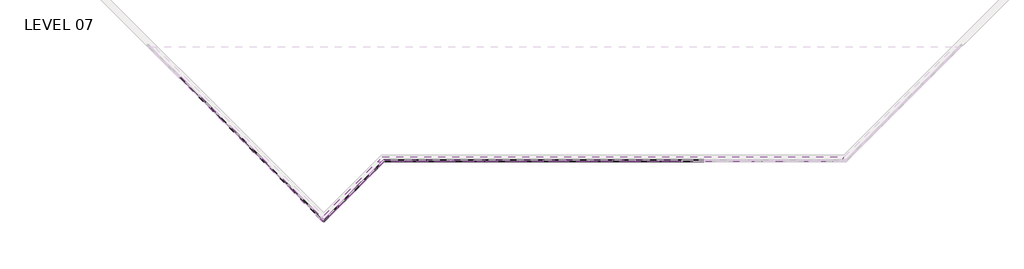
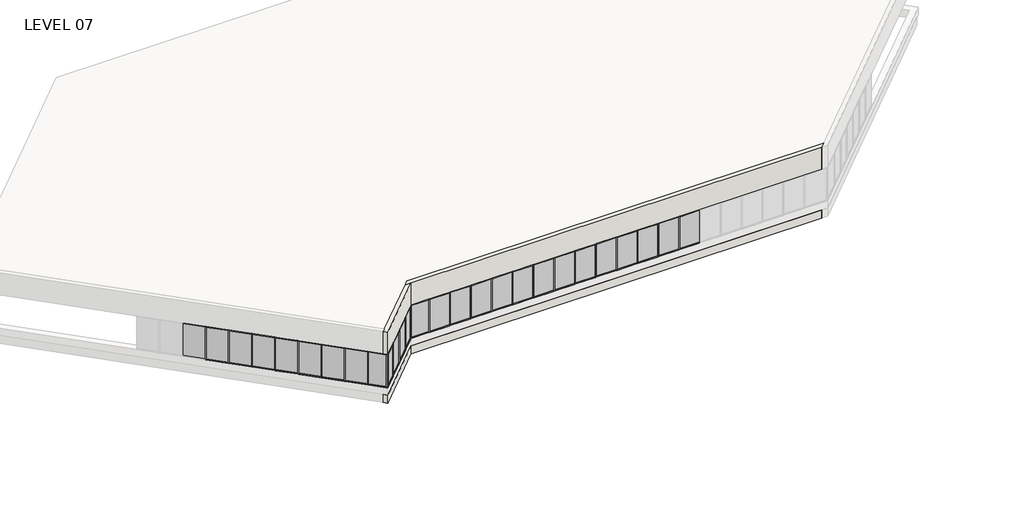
# One storey, part 1 of 18: 80 members, 27 plates, 4 walls.
"""IFC4 building model written with IfcOpenShell, lengths in millimetres."""

from ifc_helpers import new_model, si_unit, origin, place, context, project, spatial, faceted_brep, transform, mapped, element, save
from components import member_5247f267, member_e44af9ab, member_800970d4, member_c23f844a, member_45eb7f2e, member_ed9c17d6, member_53409b32, member_43bac76b, member_0b71a88d, plate_67294edd, plate_50b9cd61, plate_9c66726c, plate_dca6a18a, plate_903242d9, plate_0d1907f3, plate_15429445

model = new_model("IFC4")

# Units and contexts
model_context = context("Model", 3, world=origin())
ifc_project = project(units=[si_unit("LENGTHUNIT", "METRE", prefix="MILLI")], contexts=[model_context])

# Site, building, storey
site = spatial("IfcSite", under=ifc_project)
building = spatial("IfcBuilding", under=site)
storey = spatial("IfcBuildingStorey", under=building, Name="LEVEL 07", Elevation=23368.0)

# Members
placement = place(None, origin())
member_shape = member_5247f267(model_context)
element("IfcMember", 1, ObjectType="Rectangular Mullion : 2\" x 4.5\" rectangular", at=placement, inside=storey, context=model_context, shape_type="MappedRepresentation", body=[
    mapped(member_shape, transform((19945.35, -5092.0171279, 23368.0), x_axis=(0.0, 0.0, -1.0), y_axis=(0.0, -1.0, 0.0), z_axis=(-1.0, 0.0, 0.0))),
])
element("IfcMember", 2, ObjectType="Rectangular Mullion : 2\" x 4.5\" rectangular", at=placement, inside=storey, context=model_context, shape_type="MappedRepresentation", body=[
    mapped(member_shape, transform((21469.35, -5092.0171279, 23368.0), x_axis=(0.0, 0.0, -1.0), y_axis=(0.0, -1.0, 0.0), z_axis=(-1.0, 0.0, 0.0))),
])
element("IfcMember", 3, ObjectType="Rectangular Mullion : 2\" x 4.5\" rectangular", at=placement, inside=storey, context=model_context, shape_type="MappedRepresentation", body=[
    mapped(member_shape, transform((22993.35, -5092.0171279, 23368.0), x_axis=(0.0, 0.0, -1.0), y_axis=(0.0, -1.0, 0.0), z_axis=(-1.0, 0.0, 0.0))),
])
element("IfcMember", 4, ObjectType="Rectangular Mullion : 2\" x 4.5\" rectangular", at=placement, inside=storey, context=model_context, shape_type="MappedRepresentation", body=[
    mapped(member_shape, transform((29089.35, -5092.0171279, 23368.0), x_axis=(0.0, 0.0, -1.0), y_axis=(0.0, -1.0, 0.0), z_axis=(-1.0, 0.0, 0.0))),
])
element("IfcMember", 5, ObjectType="Rectangular Mullion : 2\" x 4.5\" rectangular", at=placement, inside=storey, context=model_context, shape_type="MappedRepresentation", body=[
    mapped(member_shape, transform((30613.35, -5092.0171279, 23368.0), x_axis=(0.0, 0.0, -1.0), y_axis=(0.0, -1.0, 0.0), z_axis=(-1.0, 0.0, 0.0))),
])
element("IfcMember", 6, ObjectType="Rectangular Mullion : 2\" x 4.5\" rectangular", at=placement, inside=storey, context=model_context, shape_type="MappedRepresentation", body=[
    mapped(member_shape, transform((32137.35, -5092.0171279, 23368.0), x_axis=(0.0, 0.0, -1.0), y_axis=(0.0, -1.0, 0.0), z_axis=(-1.0, 0.0, 0.0))),
])
element("IfcMember", 7, ObjectType="Rectangular Mullion : 2\" x 4.5\" rectangular", at=placement, inside=storey, context=model_context, shape_type="MappedRepresentation", body=[
    mapped(member_shape, transform((35185.35, -5092.0171279, 23368.0), x_axis=(0.0, 0.0, -1.0), y_axis=(0.0, -1.0, 0.0), z_axis=(-1.0, 0.0, 0.0))),
])
element("IfcMember", 8, ObjectType="Rectangular Mullion : 2\" x 4.5\" rectangular", at=placement, inside=storey, context=model_context, shape_type="MappedRepresentation", body=[
    mapped(member_shape, transform((36709.35, -5092.0171279, 23368.0), x_axis=(0.0, 0.0, -1.0), y_axis=(0.0, -1.0, 0.0), z_axis=(-1.0, 0.0, 0.0))),
])
element("IfcMember", 9, ObjectType="Rectangular Mullion : 2\" x 4.5\" rectangular", at=placement, inside=storey, context=model_context, shape_type="MappedRepresentation", body=[
    mapped(member_shape, transform((24517.35, -5092.0171279, 23368.0), x_axis=(0.0, 0.0, -1.0), y_axis=(0.0, -1.0, 0.0), z_axis=(-1.0, 0.0, 0.0))),
])
element("IfcMember", 10, ObjectType="Rectangular Mullion : 2\" x 4.5\" rectangular", at=placement, inside=storey, context=model_context, shape_type="MappedRepresentation", body=[
    mapped(member_shape, transform((27565.35, -5092.0171279, 23368.0), x_axis=(0.0, 0.0, -1.0), y_axis=(0.0, -1.0, 0.0), z_axis=(-1.0, 0.0, 0.0))),
])
element("IfcMember", 11, ObjectType="Rectangular Mullion : 2\" x 4.5\" rectangular", at=placement, inside=storey, context=model_context, shape_type="MappedRepresentation", body=[
    mapped(member_shape, transform((26041.35, -5092.0171279, 23368.0), x_axis=(0.0, 0.0, -1.0), y_axis=(0.0, -1.0, 0.0), z_axis=(-1.0, 0.0, 0.0))),
])
element("IfcMember", 12, ObjectType="Rectangular Mullion : 2\" x 4.5\" rectangular", at=placement, inside=storey, context=model_context, shape_type="MappedRepresentation", body=[
    mapped(member_shape, transform((38233.35, -5092.0171279, 23368.0), x_axis=(0.0, 0.0, -1.0), y_axis=(0.0, -1.0, 0.0), z_axis=(-1.0, 0.0, 0.0))),
])
element("IfcMember", 13, ObjectType="Rectangular Mullion : 2\" x 4.5\" rectangular", at=placement, inside=storey, context=model_context, shape_type="MappedRepresentation", body=[
    mapped(member_shape, transform((33661.35, -5092.0171279, 23368.0), x_axis=(0.0, 0.0, -1.0), y_axis=(0.0, -1.0, 0.0), z_axis=(-1.0, 0.0, 0.0))),
])
element("IfcMember", 14, ObjectType="Rectangular Mullion : 2\" x 4.5\" rectangular", at=placement, inside=storey, context=model_context, shape_type="MappedRepresentation", body=[
    mapped(member_shape, transform((9409.6310836, -3891.4043471, 23368.0), x_axis=(0.0, 0.0, -1.0), y_axis=(-0.707106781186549, -0.7071067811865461, 0.0), z_axis=(-0.7071067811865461, 0.707106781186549, 0.0))),
])
element("IfcMember", 15, ObjectType="Rectangular Mullion : 2\" x 4.5\" rectangular", at=placement, inside=storey, context=model_context, shape_type="MappedRepresentation", body=[
    mapped(member_shape, transform((10487.2618181, -4969.0350816, 23368.0), x_axis=(0.0, 0.0, -1.0), y_axis=(-0.707106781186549, -0.7071067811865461, 0.0), z_axis=(-0.7071067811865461, 0.707106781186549, 0.0))),
])
element("IfcMember", 16, ObjectType="Rectangular Mullion : 2\" x 4.5\" rectangular", at=placement, inside=storey, context=model_context, shape_type="MappedRepresentation", body=[
    mapped(member_shape, transform((11564.8925527, -6046.6658162, 23368.0), x_axis=(0.0, 0.0, -1.0), y_axis=(-0.707106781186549, -0.7071067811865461, 0.0), z_axis=(-0.7071067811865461, 0.707106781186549, 0.0))),
])
element("IfcMember", 17, ObjectType="Rectangular Mullion : 2\" x 4.5\" rectangular", at=placement, inside=storey, context=model_context, shape_type="MappedRepresentation", body=[
    mapped(member_shape, transform((12642.5232872, -7124.2965507, 23368.0), x_axis=(0.0, 0.0, -1.0), y_axis=(-0.7071067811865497, -0.7071067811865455, 0.0), z_axis=(-0.7071067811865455, 0.7071067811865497, 0.0))),
])
element("IfcMember", 18, ObjectType="Rectangular Mullion : 2\" x 4.5\" rectangular", at=placement, inside=storey, context=model_context, shape_type="MappedRepresentation", body=[
    mapped(member_shape, transform((16592.327111, -7061.3461525, 23368.0), x_axis=(0.0, 0.0, -1.0), y_axis=(0.7071067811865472, -0.7071067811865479, 0.0), z_axis=(-0.7071067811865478, -0.7071067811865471, 0.0))),
])
element("IfcMember", 19, ObjectType="Rectangular Mullion : 2\" x 4.5\" rectangular", at=placement, inside=storey, context=model_context, shape_type="MappedRepresentation", body=[
    mapped(member_shape, transform((15514.6963765, -8138.976887, 23368.0), x_axis=(0.0, 0.0, -1.0), y_axis=(0.7071067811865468, -0.7071067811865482, 0.0), z_axis=(-0.7071067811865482, -0.7071067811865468, 0.0))),
])
element("IfcMember", 20, ObjectType="Rectangular Mullion : 2\" x 4.5\" rectangular", at=placement, inside=storey, context=model_context, shape_type="MappedRepresentation", body=[
    mapped(member_shape, transform((21418.55, -5092.0171279, 25958.8), x_axis=(0.0, 0.0, 1.0), y_axis=(0.0, -1.0, 0.0), z_axis=(1.0, 0.0, 0.0))),
])
element("IfcMember", 21, ObjectType="Rectangular Mullion : 2\" x 4.5\" rectangular", at=placement, inside=storey, context=model_context, shape_type="MappedRepresentation", body=[
    mapped(member_shape, transform((22942.55, -5092.0171279, 25958.8), x_axis=(0.0, 0.0, 1.0), y_axis=(0.0, -1.0, 0.0), z_axis=(1.0, 0.0, 0.0))),
])
element("IfcMember", 22, ObjectType="Rectangular Mullion : 2\" x 4.5\" rectangular", at=placement, inside=storey, context=model_context, shape_type="MappedRepresentation", body=[
    mapped(member_shape, transform((29038.55, -5092.0171279, 25958.8), x_axis=(0.0, 0.0, 1.0), y_axis=(0.0, -1.0, 0.0), z_axis=(1.0, 0.0, 0.0))),
])
element("IfcMember", 23, ObjectType="Rectangular Mullion : 2\" x 4.5\" rectangular", at=placement, inside=storey, context=model_context, shape_type="MappedRepresentation", body=[
    mapped(member_shape, transform((30562.55, -5092.0171279, 25958.8), x_axis=(0.0, 0.0, 1.0), y_axis=(0.0, -1.0, 0.0), z_axis=(1.0, 0.0, 0.0))),
])
element("IfcMember", 24, ObjectType="Rectangular Mullion : 2\" x 4.5\" rectangular", at=placement, inside=storey, context=model_context, shape_type="MappedRepresentation", body=[
    mapped(member_shape, transform((32086.55, -5092.0171279, 25958.8), x_axis=(0.0, 0.0, 1.0), y_axis=(0.0, -1.0, 0.0), z_axis=(1.0, 0.0, 0.0))),
])
element("IfcMember", 25, ObjectType="Rectangular Mullion : 2\" x 4.5\" rectangular", at=placement, inside=storey, context=model_context, shape_type="MappedRepresentation", body=[
    mapped(member_shape, transform((35134.55, -5092.0171279, 25958.8), x_axis=(0.0, 0.0, 1.0), y_axis=(0.0, -1.0, 0.0), z_axis=(1.0, 0.0, 0.0))),
])
element("IfcMember", 26, ObjectType="Rectangular Mullion : 2\" x 4.5\" rectangular", at=placement, inside=storey, context=model_context, shape_type="MappedRepresentation", body=[
    mapped(member_shape, transform((36658.55, -5092.0171279, 25958.8), x_axis=(0.0, 0.0, 1.0), y_axis=(0.0, -1.0, 0.0), z_axis=(1.0, 0.0, 0.0))),
])
element("IfcMember", 27, ObjectType="Rectangular Mullion : 2\" x 4.5\" rectangular", at=placement, inside=storey, context=model_context, shape_type="MappedRepresentation", body=[
    mapped(member_shape, transform((24466.55, -5092.0171279, 25958.8), x_axis=(0.0, 0.0, 1.0), y_axis=(0.0, -1.0, 0.0), z_axis=(1.0, 0.0, 0.0))),
])
element("IfcMember", 28, ObjectType="Rectangular Mullion : 2\" x 4.5\" rectangular", at=placement, inside=storey, context=model_context, shape_type="MappedRepresentation", body=[
    mapped(member_shape, transform((27514.55, -5092.0171279, 25958.8), x_axis=(0.0, 0.0, 1.0), y_axis=(0.0, -1.0, 0.0), z_axis=(1.0, 0.0, 0.0))),
])
element("IfcMember", 29, ObjectType="Rectangular Mullion : 2\" x 4.5\" rectangular", at=placement, inside=storey, context=model_context, shape_type="MappedRepresentation", body=[
    mapped(member_shape, transform((25990.55, -5092.0171279, 25958.8), x_axis=(0.0, 0.0, 1.0), y_axis=(0.0, -1.0, 0.0), z_axis=(1.0, 0.0, 0.0))),
])
element("IfcMember", 30, ObjectType="Rectangular Mullion : 2\" x 4.5\" rectangular", at=placement, inside=storey, context=model_context, shape_type="MappedRepresentation", body=[
    mapped(member_shape, transform((38182.55, -5092.0171279, 25958.8), x_axis=(0.0, 0.0, 1.0), y_axis=(0.0, -1.0, 0.0), z_axis=(1.0, 0.0, 0.0))),
])
element("IfcMember", 31, ObjectType="Rectangular Mullion : 2\" x 4.5\" rectangular", at=placement, inside=storey, context=model_context, shape_type="MappedRepresentation", body=[
    mapped(member_shape, transform((33610.55, -5092.0171279, 25958.8), x_axis=(0.0, 0.0, 1.0), y_axis=(0.0, -1.0, 0.0), z_axis=(1.0, 0.0, 0.0))),
])
element("IfcMember", 32, ObjectType="Rectangular Mullion : 2\" x 4.5\" rectangular", at=placement, inside=storey, context=model_context, shape_type="MappedRepresentation", body=[
    mapped(member_shape, transform((10451.3407936, -4933.1140572, 25958.8), x_axis=(0.0, 0.0, 1.0), y_axis=(-0.707106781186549, -0.7071067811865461, 0.0), z_axis=(0.7071067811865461, -0.707106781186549, 0.0))),
])
element("IfcMember", 33, ObjectType="Rectangular Mullion : 2\" x 4.5\" rectangular", at=placement, inside=storey, context=model_context, shape_type="MappedRepresentation", body=[
    mapped(member_shape, transform((11528.9715282, -6010.7447917, 25958.8), x_axis=(0.0, 0.0, 1.0), y_axis=(-0.707106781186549, -0.7071067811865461, 0.0), z_axis=(0.7071067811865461, -0.707106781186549, 0.0))),
])
element("IfcMember", 34, ObjectType="Rectangular Mullion : 2\" x 4.5\" rectangular", at=placement, inside=storey, context=model_context, shape_type="MappedRepresentation", body=[
    mapped(member_shape, transform((12606.6022627, -7088.3755262, 25958.8), x_axis=(0.0, 0.0, 1.0), y_axis=(-0.707106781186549, -0.7071067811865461, 0.0), z_axis=(0.7071067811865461, -0.707106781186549, 0.0))),
])
element("IfcMember", 35, ObjectType="Rectangular Mullion : 2\" x 4.5\" rectangular", at=placement, inside=storey, context=model_context, shape_type="MappedRepresentation", body=[
    mapped(member_shape, transform((13684.2329972, -8166.0062607, 25958.8), x_axis=(0.0, 0.0, 1.0), y_axis=(-0.7071067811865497, -0.7071067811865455, 0.0), z_axis=(0.7071067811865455, -0.7071067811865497, 0.0))),
])
element("IfcMember", 36, ObjectType="Rectangular Mullion : 2\" x 4.5\" rectangular", at=placement, inside=storey, context=model_context, shape_type="MappedRepresentation", body=[
    mapped(member_shape, transform((16556.4060865, -7097.267177, 25958.8), x_axis=(0.0, 0.0, 1.0), y_axis=(0.7071067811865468, -0.7071067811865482, 0.0), z_axis=(0.7071067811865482, 0.7071067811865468, 0.0))),
])
element("IfcMember", 37, ObjectType="Rectangular Mullion : 2\" x 4.5\" rectangular", at=placement, inside=storey, context=model_context, shape_type="MappedRepresentation", body=[
    mapped(member_shape, transform((17634.036821, -6019.6364425, 25958.8), x_axis=(0.0, 0.0, 1.0), y_axis=(0.7071067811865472, -0.7071067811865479, 0.0), z_axis=(0.7071067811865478, 0.7071067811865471, 0.0))),
])
member_2_shape = member_e44af9ab(model_context)
element("IfcMember", 38, ObjectType="Rectangular Mullion : 2\" x 4.5\" rectangular", at=placement, inside=storey, context=model_context, shape_type="MappedRepresentation", body=[
    mapped(member_2_shape, transform((19919.95, -5092.0171279, 23368.0), x_axis=(1.0, 0.0, 0.0), y_axis=(0.0, -1.0, 0.0), z_axis=(0.0, 0.0, -1.0))),
])
element("IfcMember", 39, ObjectType="Rectangular Mullion : 2\" x 4.5\" rectangular", at=placement, inside=storey, context=model_context, shape_type="MappedRepresentation", body=[
    mapped(member_2_shape, transform((21443.95, -5092.0171279, 23368.0), x_axis=(1.0, 0.0, 0.0), y_axis=(0.0, -1.0, 0.0), z_axis=(0.0, 0.0, -1.0))),
])
element("IfcMember", 40, ObjectType="Rectangular Mullion : 2\" x 4.5\" rectangular", at=placement, inside=storey, context=model_context, shape_type="MappedRepresentation", body=[
    mapped(member_2_shape, transform((22967.95, -5092.0171279, 23368.0), x_axis=(1.0, 0.0, 0.0), y_axis=(0.0, -1.0, 0.0), z_axis=(0.0, 0.0, -1.0))),
])
element("IfcMember", 41, ObjectType="Rectangular Mullion : 2\" x 4.5\" rectangular", at=placement, inside=storey, context=model_context, shape_type="MappedRepresentation", body=[
    mapped(member_2_shape, transform((29063.95, -5092.0171279, 23368.0), x_axis=(1.0, 0.0, 0.0), y_axis=(0.0, -1.0, 0.0), z_axis=(0.0, 0.0, -1.0))),
])
element("IfcMember", 42, ObjectType="Rectangular Mullion : 2\" x 4.5\" rectangular", at=placement, inside=storey, context=model_context, shape_type="MappedRepresentation", body=[
    mapped(member_2_shape, transform((30587.95, -5092.0171279, 23368.0), x_axis=(1.0, 0.0, 0.0), y_axis=(0.0, -1.0, 0.0), z_axis=(0.0, 0.0, -1.0))),
])
element("IfcMember", 43, ObjectType="Rectangular Mullion : 2\" x 4.5\" rectangular", at=placement, inside=storey, context=model_context, shape_type="MappedRepresentation", body=[
    mapped(member_2_shape, transform((32111.95, -5092.0171279, 23368.0), x_axis=(1.0, 0.0, 0.0), y_axis=(0.0, -1.0, 0.0), z_axis=(0.0, 0.0, -1.0))),
])
element("IfcMember", 44, ObjectType="Rectangular Mullion : 2\" x 4.5\" rectangular", at=placement, inside=storey, context=model_context, shape_type="MappedRepresentation", body=[
    mapped(member_2_shape, transform((35159.95, -5092.0171279, 23368.0), x_axis=(1.0, 0.0, 0.0), y_axis=(0.0, -1.0, 0.0), z_axis=(0.0, 0.0, -1.0))),
])
element("IfcMember", 45, ObjectType="Rectangular Mullion : 2\" x 4.5\" rectangular", at=placement, inside=storey, context=model_context, shape_type="MappedRepresentation", body=[
    mapped(member_2_shape, transform((36683.95, -5092.0171279, 23368.0), x_axis=(1.0, 0.0, 0.0), y_axis=(0.0, -1.0, 0.0), z_axis=(0.0, 0.0, -1.0))),
])
element("IfcMember", 46, ObjectType="Rectangular Mullion : 2\" x 4.5\" rectangular", at=placement, inside=storey, context=model_context, shape_type="MappedRepresentation", body=[
    mapped(member_2_shape, transform((24491.95, -5092.0171279, 23368.0), x_axis=(1.0, 0.0, 0.0), y_axis=(0.0, -1.0, 0.0), z_axis=(0.0, 0.0, -1.0))),
])
element("IfcMember", 47, ObjectType="Rectangular Mullion : 2\" x 4.5\" rectangular", at=placement, inside=storey, context=model_context, shape_type="MappedRepresentation", body=[
    mapped(member_2_shape, transform((27539.95, -5092.0171279, 23368.0), x_axis=(1.0, 0.0, 0.0), y_axis=(0.0, -1.0, 0.0), z_axis=(0.0, 0.0, -1.0))),
])
element("IfcMember", 48, ObjectType="Rectangular Mullion : 2\" x 4.5\" rectangular", at=placement, inside=storey, context=model_context, shape_type="MappedRepresentation", body=[
    mapped(member_2_shape, transform((26015.95, -5092.0171279, 23368.0), x_axis=(1.0, 0.0, 0.0), y_axis=(0.0, -1.0, 0.0), z_axis=(0.0, 0.0, -1.0))),
])
element("IfcMember", 49, ObjectType="Rectangular Mullion : 2\" x 4.5\" rectangular", at=placement, inside=storey, context=model_context, shape_type="MappedRepresentation", body=[
    mapped(member_2_shape, transform((38207.95, -5092.0171279, 23368.0), x_axis=(1.0, 0.0, 0.0), y_axis=(0.0, -1.0, 0.0), z_axis=(0.0, 0.0, -1.0))),
])
element("IfcMember", 50, ObjectType="Rectangular Mullion : 2\" x 4.5\" rectangular", at=placement, inside=storey, context=model_context, shape_type="MappedRepresentation", body=[
    mapped(member_2_shape, transform((33635.95, -5092.0171279, 23368.0), x_axis=(1.0, 0.0, 0.0), y_axis=(0.0, -1.0, 0.0), z_axis=(0.0, 0.0, -1.0))),
])
element("IfcMember", 51, ObjectType="Rectangular Mullion : 2\" x 4.5\" rectangular", at=placement, inside=storey, context=model_context, shape_type="MappedRepresentation", body=[
    mapped(member_2_shape, transform((6176.740342, -658.5136055, 23368.0), x_axis=(0.7071067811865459, -0.7071067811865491, 0.0), y_axis=(-0.7071067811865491, -0.7071067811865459, 0.0), z_axis=(0.0, 0.0, -1.0))),
])
element("IfcMember", 52, ObjectType="Rectangular Mullion : 2\" x 4.5\" rectangular", at=placement, inside=storey, context=model_context, shape_type="MappedRepresentation", body=[
    mapped(member_2_shape, transform((7248.3837518, -1730.1570153, 23368.0), x_axis=(0.7071067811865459, -0.7071067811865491, 0.0), y_axis=(-0.7071067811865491, -0.7071067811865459, 0.0), z_axis=(0.0, 0.0, -1.0))),
])
element("IfcMember", 53, ObjectType="Rectangular Mullion : 2\" x 4.5\" rectangular", at=placement, inside=storey, context=model_context, shape_type="MappedRepresentation", body=[
    mapped(member_2_shape, transform((8320.0271616, -2801.8004251, 23368.0), x_axis=(0.7071067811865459, -0.7071067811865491, 0.0), y_axis=(-0.7071067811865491, -0.7071067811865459, 0.0), z_axis=(0.0, 0.0, -1.0))),
])
element("IfcMember", 54, ObjectType="Rectangular Mullion : 2\" x 4.5\" rectangular", at=placement, inside=storey, context=model_context, shape_type="MappedRepresentation", body=[
    mapped(member_2_shape, transform((9391.6705714, -3873.4438349, 23368.0), x_axis=(0.7071067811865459, -0.7071067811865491, 0.0), y_axis=(-0.7071067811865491, -0.7071067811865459, 0.0), z_axis=(0.0, 0.0, -1.0))),
])
element("IfcMember", 55, ObjectType="Rectangular Mullion : 2\" x 4.5\" rectangular", at=placement, inside=storey, context=model_context, shape_type="MappedRepresentation", body=[
    mapped(member_2_shape, transform((10469.3013059, -4951.0745694, 23368.0), x_axis=(0.7071067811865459, -0.7071067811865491, 0.0), y_axis=(-0.7071067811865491, -0.7071067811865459, 0.0), z_axis=(0.0, 0.0, -1.0))),
])
element("IfcMember", 56, ObjectType="Rectangular Mullion : 2\" x 4.5\" rectangular", at=placement, inside=storey, context=model_context, shape_type="MappedRepresentation", body=[
    mapped(member_2_shape, transform((11546.9320404, -6028.7053039, 23368.0), x_axis=(0.7071067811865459, -0.7071067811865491, 0.0), y_axis=(-0.7071067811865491, -0.7071067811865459, 0.0), z_axis=(0.0, 0.0, -1.0))),
])
element("IfcMember", 57, ObjectType="Rectangular Mullion : 2\" x 4.5\" rectangular", at=placement, inside=storey, context=model_context, shape_type="MappedRepresentation", body=[
    mapped(member_2_shape, transform((12624.5627749, -7106.3360385, 23368.0), x_axis=(0.7071067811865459, -0.7071067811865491, 0.0), y_axis=(-0.7071067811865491, -0.7071067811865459, 0.0), z_axis=(0.0, 0.0, -1.0))),
])
element("IfcMember", 58, ObjectType="Rectangular Mullion : 2\" x 4.5\" rectangular", at=placement, inside=storey, context=model_context, shape_type="MappedRepresentation", body=[
    mapped(member_2_shape, transform((13702.1935095, -8183.966773, 23368.0), x_axis=(0.7071067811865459, -0.7071067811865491, 0.0), y_axis=(-0.7071067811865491, -0.7071067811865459, 0.0), z_axis=(0.0, 0.0, -1.0))),
])
element("IfcMember", 59, ObjectType="Rectangular Mullion : 2\" x 4.5\" rectangular", at=placement, inside=storey, context=model_context, shape_type="MappedRepresentation", body=[
    mapped(member_2_shape, transform((16574.3665988, -7079.3066648, 23368.0), x_axis=(0.707106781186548, 0.707106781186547, 0.0), y_axis=(0.707106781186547, -0.707106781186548, 0.0), z_axis=(0.0, 0.0, -1.0))),
])
element("IfcMember", 60, ObjectType="Rectangular Mullion : 2\" x 4.5\" rectangular", at=placement, inside=storey, context=model_context, shape_type="MappedRepresentation", body=[
    mapped(member_2_shape, transform((17651.9973333, -6001.6759302, 23368.0), x_axis=(0.707106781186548, 0.707106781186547, 0.0), y_axis=(0.707106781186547, -0.707106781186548, 0.0), z_axis=(0.0, 0.0, -1.0))),
])
element("IfcMember", 61, ObjectType="Rectangular Mullion : 2\" x 4.5\" rectangular", at=placement, inside=storey, context=model_context, shape_type="MappedRepresentation", body=[
    mapped(member_2_shape, transform((15496.7358642, -8156.9373993, 23368.0), x_axis=(0.707106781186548, 0.707106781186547, 0.0), y_axis=(0.707106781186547, -0.707106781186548, 0.0), z_axis=(0.0, 0.0, -1.0))),
])
member_3_shape = member_800970d4(model_context)
element("IfcMember", 62, ObjectType="Rectangular Mullion : 2\" x 4.5\" rectangular", at=placement, inside=storey, context=model_context, shape_type="MappedRepresentation", body=[
    mapped(member_3_shape, transform((14585.95, -9067.7232635, 23368.0), x_axis=(0.7071067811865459, -0.7071067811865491, 0.0), y_axis=(-0.7071067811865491, -0.7071067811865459, 0.0), z_axis=(0.0, 0.0, -1.0))),
])
element("IfcMember", 63, ObjectType="Rectangular Mullion : 2\" x 4.5\" rectangular", at=placement, inside=storey, context=model_context, shape_type="MappedRepresentation", body=[
    mapped(member_3_shape, transform((18561.6561356, -5092.0171279, 23368.0), x_axis=(0.707106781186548, 0.707106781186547, 0.0), y_axis=(0.707106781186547, -0.707106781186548, 0.0), z_axis=(0.0, 0.0, -1.0))),
])
element("IfcMember", 64, ObjectType="Rectangular Mullion : 2\" x 4.5\" rectangular", at=placement, inside=storey, context=model_context, shape_type="MappedRepresentation", body=[
    mapped(member_3_shape, transform((18561.6561356, -5092.0171279, 25958.8), x_axis=(-1.0, 0.0, 0.0), y_axis=(0.0, -1.0, 0.0), z_axis=(0.0, 0.0, 1.0))),
])
element("IfcMember", 65, ObjectType="Rectangular Mullion : 2\" x 4.5\" rectangular", at=placement, inside=storey, context=model_context, shape_type="MappedRepresentation", body=[
    mapped(member_3_shape, transform((14585.95, -9067.7232635, 25958.8), x_axis=(-0.707106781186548, -0.707106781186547, 0.0), y_axis=(0.707106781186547, -0.707106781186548, 0.0), z_axis=(0.0, 0.0, 1.0))),
])
member_4_shape = member_c23f844a(model_context)
element("IfcMember", 66, ObjectType="Rectangular Mullion : 2\" x 4.5\" rectangular", at=placement, inside=storey, context=model_context, shape_type="MappedRepresentation", body=[
    mapped(member_4_shape, transform((7230.4232395, -1712.196503, 25958.8), x_axis=(0.0, 0.0, 1.0), y_axis=(-0.707106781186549, -0.7071067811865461, 0.0), z_axis=(0.7071067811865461, -0.707106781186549, 0.0))),
])
element("IfcMember", 67, ObjectType="Rectangular Mullion : 2\" x 4.5\" rectangular", at=placement, inside=storey, context=model_context, shape_type="MappedRepresentation", body=[
    mapped(member_4_shape, transform((8302.0666493, -2783.8399128, 25958.8), x_axis=(0.0, 0.0, 1.0), y_axis=(-0.7071067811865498, -0.7071067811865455, 0.0), z_axis=(0.7071067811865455, -0.7071067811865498, 0.0))),
])
element("IfcMember", 68, ObjectType="Rectangular Mullion : 2\" x 4.5\" rectangular", at=placement, inside=storey, context=model_context, shape_type="MappedRepresentation", body=[
    mapped(member_4_shape, transform((9373.7100591, -3855.4833226, 25958.8), x_axis=(0.0, 0.0, 1.0), y_axis=(-0.707106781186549, -0.7071067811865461, 0.0), z_axis=(0.707106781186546, -0.7071067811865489, 0.0))),
])
element("IfcMember", 69, ObjectType="Rectangular Mullion : 2\" x 4.5\" rectangular", at=placement, inside=storey, context=model_context, shape_type="MappedRepresentation", body=[
    mapped(member_4_shape, transform((6194.7008542, -676.4741177, 23368.0), x_axis=(0.0, 0.0, -1.0), y_axis=(-0.7071067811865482, -0.7071067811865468, 0.0), z_axis=(-0.7071067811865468, 0.7071067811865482, 0.0))),
])
element("IfcMember", 70, ObjectType="Rectangular Mullion : 2\" x 4.5\" rectangular", at=placement, inside=storey, context=model_context, shape_type="MappedRepresentation", body=[
    mapped(member_4_shape, transform((7266.344264, -1748.1175275, 23368.0), x_axis=(0.0, 0.0, -1.0), y_axis=(-0.7071067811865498, -0.7071067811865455, 0.0), z_axis=(-0.7071067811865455, 0.7071067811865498, 0.0))),
])
element("IfcMember", 71, ObjectType="Rectangular Mullion : 2\" x 4.5\" rectangular", at=placement, inside=storey, context=model_context, shape_type="MappedRepresentation", body=[
    mapped(member_4_shape, transform((8337.9876738, -2819.7609373, 23368.0), x_axis=(0.0, 0.0, -1.0), y_axis=(-0.707106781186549, -0.7071067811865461, 0.0), z_axis=(-0.707106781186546, 0.7071067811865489, 0.0))),
])
member_5_shape = member_45eb7f2e(model_context)
element("IfcMember", 72, ObjectType="Rectangular Mullion : 2\" x 4.5\" rectangular", at=placement, inside=storey, context=model_context, shape_type="MappedRepresentation", body=[
    mapped(member_5_shape, transform((19894.55, -5092.0171279, 25958.8), x_axis=(0.0, 0.0, 1.0), y_axis=(0.0, -1.0, 0.0), z_axis=(1.0, 0.0, 0.0))),
])
element("IfcMember", 73, ObjectType="Rectangular Mullion : 2\" x 4.5\" rectangular", at=placement, inside=storey, context=model_context, shape_type="MappedRepresentation", body=[
    mapped(member_5_shape, transform((18612.4561356, -5092.0171279, 23368.0), x_axis=(0.0, 0.0, -1.0), y_axis=(0.0, -1.0, 0.0), z_axis=(-1.0, 0.0, 0.0))),
])
member_6_shape = member_ed9c17d6(model_context)
element("IfcMember", 74, ObjectType="Rectangular Mullion : 2\" x 4.5\" rectangular", at=placement, inside=storey, context=model_context, shape_type="MappedRepresentation", body=[
    mapped(member_6_shape, transform((6158.7798297, -640.5530932, 25958.8), x_axis=(0.0, 0.0, 1.0), y_axis=(-0.707106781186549, -0.7071067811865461, 0.0), z_axis=(0.7071067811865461, -0.707106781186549, 0.0))),
])
member_7_shape = member_53409b32(model_context)
element("IfcMember", 75, ObjectType="Rectangular Mullion : 2\" x 4.5\" rectangular", at=placement, inside=storey, context=model_context, shape_type="MappedRepresentation", body=[
    mapped(member_7_shape, transform((14550.0289755, -9031.802239, 25958.8), x_axis=(0.0, 0.0, 1.0), y_axis=(-0.7071067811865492, -0.7071067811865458, 0.0), z_axis=(0.7071067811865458, -0.7071067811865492, 0.0))),
])
element("IfcMember", 76, ObjectType="Rectangular Mullion : 2\" x 4.5\" rectangular", at=placement, inside=storey, context=model_context, shape_type="MappedRepresentation", body=[
    mapped(member_7_shape, transform((13720.1540217, -8201.9272852, 23368.0), x_axis=(0.0, 0.0, -1.0), y_axis=(-0.7071067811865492, -0.7071067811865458, 0.0), z_axis=(-0.7071067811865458, 0.7071067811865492, 0.0))),
])
member_8_shape = member_43bac76b(model_context)
element("IfcMember", 77, ObjectType="Rectangular Mullion : 2\" x 4.5\" rectangular", at=placement, inside=storey, context=model_context, shape_type="MappedRepresentation", body=[
    mapped(member_8_shape, transform((18525.7351111, -5127.9381524, 25958.8), x_axis=(0.0, 0.0, 1.0), y_axis=(0.7071067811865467, -0.7071067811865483, 0.0), z_axis=(0.7071067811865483, 0.7071067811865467, 0.0))),
])
element("IfcMember", 78, ObjectType="Rectangular Mullion : 2\" x 4.5\" rectangular", at=placement, inside=storey, context=model_context, shape_type="MappedRepresentation", body=[
    mapped(member_8_shape, transform((17669.9578455, -5983.715418, 23368.0), x_axis=(0.0, 0.0, -1.0), y_axis=(0.7071067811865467, -0.7071067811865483, 0.0), z_axis=(-0.7071067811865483, -0.7071067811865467, 0.0))),
])
member_9_shape = member_0b71a88d(model_context)
element("IfcMember", 79, ObjectType="Rectangular Mullion : 2\" x 4.5\" rectangular", at=placement, inside=storey, context=model_context, shape_type="MappedRepresentation", body=[
    mapped(member_9_shape, transform((14621.8710245, -9031.802239, 23368.0), x_axis=(0.0, 0.0, -1.0), y_axis=(0.7071067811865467, -0.7071067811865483, 0.0), z_axis=(-0.7071067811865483, -0.7071067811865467, 0.0))),
])
element("IfcMember", 80, ObjectType="Rectangular Mullion : 2\" x 4.5\" rectangular", at=placement, inside=storey, context=model_context, shape_type="MappedRepresentation", body=[
    mapped(member_9_shape, transform((15478.775352, -8174.8979115, 25958.8), x_axis=(0.0, 0.0, 1.0), y_axis=(0.7071067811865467, -0.7071067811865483, 0.0), z_axis=(0.7071067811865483, 0.7071067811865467, 0.0))),
])

# Plates
plate_shape = plate_67294edd(model_context)
element("IfcPlate", 81, ObjectType="System Panel : 1/4\" Glass", at=placement, inside=storey, context=model_context, shape_type="MappedRepresentation", body=[
    mapped(plate_shape, transform((20681.95, -5092.0171279, 23418.8), x_axis=(1.0, 0.0, 0.0), y_axis=(0.0, 1.0, 0.0), z_axis=(0.0, 0.0, 1.0))),
])
element("IfcPlate", 82, ObjectType="System Panel : 1/4\" Glass", at=placement, inside=storey, context=model_context, shape_type="MappedRepresentation", body=[
    mapped(plate_shape, transform((22205.95, -5092.0171279, 23418.8), x_axis=(1.0, 0.0, 0.0), y_axis=(0.0, 1.0, 0.0), z_axis=(0.0, 0.0, 1.0))),
])
element("IfcPlate", 83, ObjectType="System Panel : 1/4\" Glass", at=placement, inside=storey, context=model_context, shape_type="MappedRepresentation", body=[
    mapped(plate_shape, transform((23729.95, -5092.0171279, 23418.8), x_axis=(1.0, 0.0, 0.0), y_axis=(0.0, 1.0, 0.0), z_axis=(0.0, 0.0, 1.0))),
])
element("IfcPlate", 84, ObjectType="System Panel : 1/4\" Glass", at=placement, inside=storey, context=model_context, shape_type="MappedRepresentation", body=[
    mapped(plate_shape, transform((29825.95, -5092.0171279, 23418.8), x_axis=(1.0, 0.0, 0.0), y_axis=(0.0, 1.0, 0.0), z_axis=(0.0, 0.0, 1.0))),
])
element("IfcPlate", 85, ObjectType="System Panel : 1/4\" Glass", at=placement, inside=storey, context=model_context, shape_type="MappedRepresentation", body=[
    mapped(plate_shape, transform((31349.95, -5092.0171279, 23418.8), x_axis=(1.0, 0.0, 0.0), y_axis=(0.0, 1.0, 0.0), z_axis=(0.0, 0.0, 1.0))),
])
element("IfcPlate", 86, ObjectType="System Panel : 1/4\" Glass", at=placement, inside=storey, context=model_context, shape_type="MappedRepresentation", body=[
    mapped(plate_shape, transform((32873.95, -5092.0171279, 23418.8), x_axis=(1.0, 0.0, 0.0), y_axis=(0.0, 1.0, 0.0), z_axis=(0.0, 0.0, 1.0))),
])
element("IfcPlate", 87, ObjectType="System Panel : 1/4\" Glass", at=placement, inside=storey, context=model_context, shape_type="MappedRepresentation", body=[
    mapped(plate_shape, transform((35921.95, -5092.0171279, 23418.8), x_axis=(1.0, 0.0, 0.0), y_axis=(0.0, 1.0, 0.0), z_axis=(0.0, 0.0, 1.0))),
])
element("IfcPlate", 88, ObjectType="System Panel : 1/4\" Glass", at=placement, inside=storey, context=model_context, shape_type="MappedRepresentation", body=[
    mapped(plate_shape, transform((37445.95, -5092.0171279, 23418.8), x_axis=(1.0, 0.0, 0.0), y_axis=(0.0, 1.0, 0.0), z_axis=(0.0, 0.0, 1.0))),
])
element("IfcPlate", 89, ObjectType="System Panel : 1/4\" Glass", at=placement, inside=storey, context=model_context, shape_type="MappedRepresentation", body=[
    mapped(plate_shape, transform((25253.95, -5092.0171279, 23418.8), x_axis=(1.0, 0.0, 0.0), y_axis=(0.0, 1.0, 0.0), z_axis=(0.0, 0.0, 1.0))),
])
element("IfcPlate", 90, ObjectType="System Panel : 1/4\" Glass", at=placement, inside=storey, context=model_context, shape_type="MappedRepresentation", body=[
    mapped(plate_shape, transform((28301.95, -5092.0171279, 23418.8), x_axis=(1.0, 0.0, 0.0), y_axis=(0.0, 1.0, 0.0), z_axis=(0.0, 0.0, 1.0))),
])
element("IfcPlate", 91, ObjectType="System Panel : 1/4\" Glass", at=placement, inside=storey, context=model_context, shape_type="MappedRepresentation", body=[
    mapped(plate_shape, transform((26777.95, -5092.0171279, 23418.8), x_axis=(1.0, 0.0, 0.0), y_axis=(0.0, 1.0, 0.0), z_axis=(0.0, 0.0, 1.0))),
])
element("IfcPlate", 92, ObjectType="System Panel : 1/4\" Glass", at=placement, inside=storey, context=model_context, shape_type="MappedRepresentation", body=[
    mapped(plate_shape, transform((38969.95, -5092.0171279, 23418.8), x_axis=(1.0, 0.0, 0.0), y_axis=(0.0, 1.0, 0.0), z_axis=(0.0, 0.0, 1.0))),
])
element("IfcPlate", 93, ObjectType="System Panel : 1/4\" Glass", at=placement, inside=storey, context=model_context, shape_type="MappedRepresentation", body=[
    mapped(plate_shape, transform((34397.95, -5092.0171279, 23418.8), x_axis=(1.0, 0.0, 0.0), y_axis=(0.0, 1.0, 0.0), z_axis=(0.0, 0.0, 1.0))),
])
element("IfcPlate", 94, ObjectType="System Panel : 1/4\" Glass", at=placement, inside=storey, context=model_context, shape_type="MappedRepresentation", body=[
    mapped(plate_shape, transform((9930.4859386, -4412.2592021, 23418.8), x_axis=(0.7071067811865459, -0.7071067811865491, 0.0), y_axis=(0.7071067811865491, 0.7071067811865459, 0.0), z_axis=(0.0, 0.0, 1.0))),
])
element("IfcPlate", 95, ObjectType="System Panel : 1/4\" Glass", at=placement, inside=storey, context=model_context, shape_type="MappedRepresentation", body=[
    mapped(plate_shape, transform((11008.1166732, -5489.8899367, 23418.8), x_axis=(0.7071067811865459, -0.7071067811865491, 0.0), y_axis=(0.7071067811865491, 0.7071067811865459, 0.0), z_axis=(0.0, 0.0, 1.0))),
])
element("IfcPlate", 96, ObjectType="System Panel : 1/4\" Glass", at=placement, inside=storey, context=model_context, shape_type="MappedRepresentation", body=[
    mapped(plate_shape, transform((12085.7474077, -6567.5206712, 23418.8), x_axis=(0.7071067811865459, -0.7071067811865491, 0.0), y_axis=(0.7071067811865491, 0.7071067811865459, 0.0), z_axis=(0.0, 0.0, 1.0))),
])
element("IfcPlate", 97, ObjectType="System Panel : 1/4\" Glass", at=placement, inside=storey, context=model_context, shape_type="MappedRepresentation", body=[
    mapped(plate_shape, transform((13163.3781422, -7645.1514057, 23418.8), x_axis=(0.7071067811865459, -0.7071067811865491, 0.0), y_axis=(0.7071067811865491, 0.7071067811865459, 0.0), z_axis=(0.0, 0.0, 1.0))),
])
element("IfcPlate", 98, ObjectType="System Panel : 1/4\" Glass", at=placement, inside=storey, context=model_context, shape_type="MappedRepresentation", body=[
    mapped(plate_shape, transform((17113.181966, -6540.4912975, 23418.8), x_axis=(0.707106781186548, 0.707106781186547, 0.0), y_axis=(-0.707106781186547, 0.707106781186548, 0.0), z_axis=(0.0, 0.0, 1.0))),
])
element("IfcPlate", 99, ObjectType="System Panel : 1/4\" Glass", at=placement, inside=storey, context=model_context, shape_type="MappedRepresentation", body=[
    mapped(plate_shape, transform((16035.5512315, -7618.122032, 23418.8), x_axis=(0.707106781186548, 0.707106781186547, 0.0), y_axis=(-0.707106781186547, 0.707106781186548, 0.0), z_axis=(0.0, 0.0, 1.0))),
])
plate_2_shape = plate_50b9cd61(model_context)
element("IfcPlate", 100, ObjectType="System Panel : 1/4\" Glass", at=placement, inside=storey, context=model_context, shape_type="MappedRepresentation", body=[
    mapped(plate_2_shape, transform((6712.5620469, -1194.3353104, 23418.8), x_axis=(0.7071067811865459, -0.7071067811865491, 0.0), y_axis=(0.7071067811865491, 0.7071067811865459, 0.0), z_axis=(0.0, 0.0, 1.0))),
])
element("IfcPlate", 101, ObjectType="System Panel : 1/4\" Glass", at=placement, inside=storey, context=model_context, shape_type="MappedRepresentation", body=[
    mapped(plate_2_shape, transform((7784.2054567, -2265.9787202, 23418.8), x_axis=(0.7071067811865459, -0.7071067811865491, 0.0), y_axis=(0.7071067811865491, 0.7071067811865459, 0.0), z_axis=(0.0, 0.0, 1.0))),
])
element("IfcPlate", 102, ObjectType="System Panel : 1/4\" Glass", at=placement, inside=storey, context=model_context, shape_type="MappedRepresentation", body=[
    mapped(plate_2_shape, transform((8855.8488665, -3337.62213, 23418.8), x_axis=(0.7071067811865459, -0.7071067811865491, 0.0), y_axis=(0.7071067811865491, 0.7071067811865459, 0.0), z_axis=(0.0, 0.0, 1.0))),
])
plate_3_shape = plate_9c66726c(model_context)
element("IfcPlate", 103, ObjectType="System Panel : 1/4\" Glass", at=placement, inside=storey, context=model_context, shape_type="MappedRepresentation", body=[
    mapped(plate_3_shape, transform((19253.5030678, -5092.0171279, 23418.8), x_axis=(1.0, 0.0, 0.0), y_axis=(0.0, 1.0, 0.0), z_axis=(0.0, 0.0, 1.0))),
])
plate_4_shape = plate_dca6a18a(model_context)
element("IfcPlate", 104, ObjectType="System Panel : 1/4\" Glass", at=placement, inside=storey, context=model_context, shape_type="MappedRepresentation", body=[
    mapped(plate_4_shape, transform((5639.4307395, -121.204003, 23418.8), x_axis=(0.7071067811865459, -0.7071067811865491, 0.0), y_axis=(0.7071067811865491, 0.7071067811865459, 0.0), z_axis=(0.0, 0.0, 1.0))),
])
plate_5_shape = plate_903242d9(model_context)
element("IfcPlate", 105, ObjectType="System Panel : 1/4\" Glass", at=placement, inside=storey, context=model_context, shape_type="MappedRepresentation", body=[
    mapped(plate_5_shape, transform((14135.0914986, -8616.8647621, 23418.8), x_axis=(0.7071067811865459, -0.7071067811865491, 0.0), y_axis=(0.7071067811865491, 0.7071067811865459, 0.0), z_axis=(0.0, 0.0, 1.0))),
])
plate_6_shape = plate_0d1907f3(model_context)
element("IfcPlate", 106, ObjectType="System Panel : 1/4\" Glass", at=placement, inside=storey, context=model_context, shape_type="MappedRepresentation", body=[
    mapped(plate_6_shape, transform((18097.8464783, -5555.8267852, 23418.8), x_axis=(0.707106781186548, 0.707106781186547, 0.0), y_axis=(-0.707106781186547, 0.707106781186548, 0.0), z_axis=(0.0, 0.0, 1.0))),
])
plate_7_shape = plate_15429445(model_context)
element("IfcPlate", 107, ObjectType="System Panel : 1/4\" Glass", at=placement, inside=storey, context=model_context, shape_type="MappedRepresentation", body=[
    mapped(plate_7_shape, transform((15050.3231882, -8603.3500753, 23418.8), x_axis=(0.707106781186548, 0.707106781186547, 0.0), y_axis=(-0.707106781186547, 0.707106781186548, 0.0), z_axis=(0.0, 0.0, 1.0))),
])

# Walls
element("IfcWall", 108, ObjectType="01-CONCRETE-12", at=placement, inside=storey, context=model_context, shape_type="Brep", body=[
    faceted_brep([(48939.0761469, -4844.3671279, 22186.9), (18459.0761469, -4844.3671279, 22186.9), (18459.0761469, -4844.3671279, 22809.2), (48939.0761469, -4844.3671279, 22809.2), (48634.2761469, -5149.1671279, 22186.9), (48634.2761469, -5149.1671279, 22809.2), (18585.3284407, -5149.1671279, 22809.2), (18154.2761469, -5149.1671279, 22809.2), (18154.2761469, -5149.1671279, 22186.9), (18585.3284407, -5149.1671279, 22186.9)], [[[0, 1, 2, 3]], [[4, 5, 6, 7, 8, 9]], [[1, 0, 4, 9, 8]], [[3, 2, 7, 6, 5]], [[0, 3, 5, 4]], [[2, 1, 8, 7]]]),
])
element("IfcWall", 109, ObjectType="01-CONCRETE-12", at=placement, inside=storey, context=model_context, shape_type="Brep", body=[
    faceted_brep([(18154.2761469, -5149.1671279, 22186.9), (14585.95, -8717.4932748, 22186.9), (14370.4238531, -8933.0194217, 22186.9), (14370.4238531, -8933.0194217, 22809.2), (14585.95, -8717.4932748, 22809.2), (18154.2761469, -5149.1671279, 22809.2), (18585.3284407, -5149.1671279, 22186.9), (18585.3284407, -5149.1671279, 22809.2), (14585.95, -9148.5455686, 22809.2), (14585.95, -9148.5455686, 22186.9)], [[[0, 1, 2, 3, 4, 5]], [[6, 7, 8, 9]], [[2, 1, 0, 6, 9]], [[5, 4, 3, 8, 7]], [[0, 5, 7, 6]], [[3, 2, 9, 8]]]),
])
element("IfcWall", 110, ObjectType="01-CONCRETE-12", at=placement, inside=storey, context=model_context, shape_type="Brep", body=[
    faceted_brep([(48939.0761469, -4844.3671279, 25958.8), (18459.0761469, -4844.3671279, 25958.8), (18459.0761469, -4844.3671279, 27673.3), (48939.0761469, -4844.3671279, 27673.3), (48634.2761469, -5149.1671279, 25958.8), (48634.2761469, -5149.1671279, 27673.3), (18585.3284407, -5149.1671279, 27673.3), (18154.2761469, -5149.1671279, 27673.3), (18154.2761469, -5149.1671279, 25958.8), (18585.3284407, -5149.1671279, 25958.8)], [[[0, 1, 2, 3]], [[4, 5, 6, 7, 8, 9]], [[1, 0, 4, 9, 8]], [[3, 2, 7, 6, 5]], [[0, 3, 5, 4]], [[2, 1, 8, 7]]]),
])
element("IfcWall", 111, ObjectType="01-CONCRETE-12", at=placement, inside=storey, context=model_context, shape_type="Brep", body=[
    faceted_brep([(18154.2761469, -5149.1671279, 25958.8), (14585.95, -8717.4932748, 25958.8), (14370.4238531, -8933.0194217, 25958.8), (14370.4238531, -8933.0194217, 27673.3), (14585.95, -8717.4932748, 27673.3), (18154.2761469, -5149.1671279, 27673.3), (18585.3284407, -5149.1671279, 25958.8), (18585.3284407, -5149.1671279, 27673.3), (14585.95, -9148.5455686, 27673.3), (14585.95, -9148.5455686, 25958.8)], [[[0, 1, 2, 3, 4, 5]], [[6, 7, 8, 9]], [[2, 1, 0, 6, 9]], [[5, 4, 3, 8, 7]], [[0, 5, 7, 6]], [[3, 2, 9, 8]]]),
])

save(model, "model.ifc")
